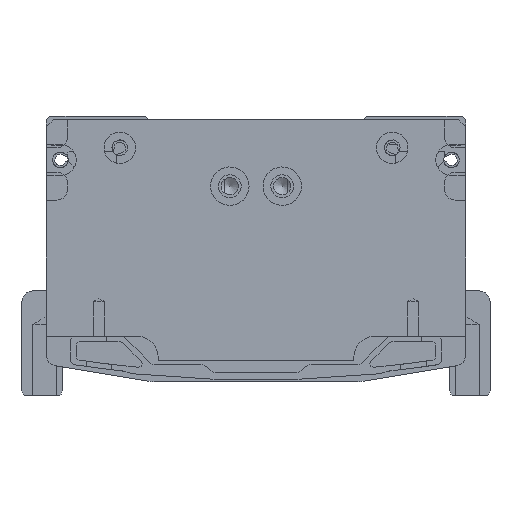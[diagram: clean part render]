
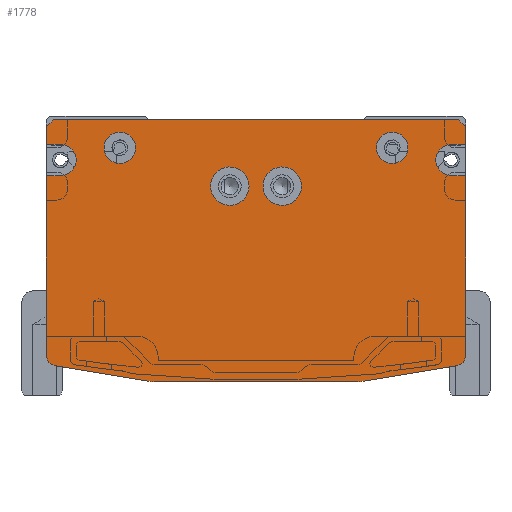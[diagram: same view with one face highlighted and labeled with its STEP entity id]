
A CAD part, front view. The second image highlights one B-rep face of the part: STEP entity #1778.
In plain terms, the highlighted planar face has unit normal (0, -1, 0).
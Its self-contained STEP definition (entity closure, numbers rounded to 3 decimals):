
#1778=ADVANCED_FACE('',(#2989,#2990,#2991,#2992,#2993),#2486,.F.);
#2486=PLANE('',#17746);
#2989=FACE_BOUND('',#4264,.T.);
#2990=FACE_BOUND('',#4265,.T.);
#2991=FACE_BOUND('',#4266,.T.);
#2992=FACE_BOUND('',#4267,.T.);
#2993=FACE_BOUND('',#4268,.T.);
#4264=EDGE_LOOP('',(#8384));
#4265=EDGE_LOOP('',(#8385));
#4266=EDGE_LOOP('',(#8386,#8387,#8388,#8389,#8390,#8391,#8392,#8393,#8394,
#8395,#8396,#8397,#8398,#8399,#8400,#8401,#8402,#8403,#8404,#8405));
#4267=EDGE_LOOP('',(#8406));
#4268=EDGE_LOOP('',(#8407));
#5540=CIRCLE('',#17647,5.5);
#5544=CIRCLE('',#17654,5.5);
#5547=CIRCLE('',#17660,4.5);
#5551=CIRCLE('',#17667,4.5);
#5558=CIRCLE('',#17685,4.5);
#5561=CIRCLE('',#17694,3.);
#5564=CIRCLE('',#17699,10.);
#5565=CIRCLE('',#17702,10.);
#5568=CIRCLE('',#17707,3.);
#5576=CIRCLE('',#17734,4.5);
#8384=ORIENTED_EDGE('',*,*,#13600,.T.);
#8385=ORIENTED_EDGE('',*,*,#13604,.T.);
#8386=ORIENTED_EDGE('',*,*,#13665,.T.);
#8387=ORIENTED_EDGE('',*,*,#13661,.F.);
#8388=ORIENTED_EDGE('',*,*,#13659,.F.);
#8389=ORIENTED_EDGE('',*,*,#13656,.F.);
#8390=ORIENTED_EDGE('',*,*,#13652,.T.);
#8391=ORIENTED_EDGE('',*,*,#13649,.T.);
#8392=ORIENTED_EDGE('',*,*,#13306,.F.);
#8393=ORIENTED_EDGE('',*,*,#13635,.T.);
#8394=ORIENTED_EDGE('',*,*,#13632,.T.);
#8395=ORIENTED_EDGE('',*,*,#13630,.F.);
#8396=ORIENTED_EDGE('',*,*,#13302,.F.);
#8397=ORIENTED_EDGE('',*,*,#13626,.T.);
#8398=ORIENTED_EDGE('',*,*,#13277,.F.);
#8399=ORIENTED_EDGE('',*,*,#13624,.T.);
#8400=ORIENTED_EDGE('',*,*,#13023,.F.);
#8401=ORIENTED_EDGE('',*,*,#13700,.T.);
#8402=ORIENTED_EDGE('',*,*,#13697,.T.);
#8403=ORIENTED_EDGE('',*,*,#13695,.F.);
#8404=ORIENTED_EDGE('',*,*,#13019,.F.);
#8405=ORIENTED_EDGE('',*,*,#13668,.T.);
#8406=ORIENTED_EDGE('',*,*,#13611,.F.);
#8407=ORIENTED_EDGE('',*,*,#13607,.F.);
#11206=VERTEX_POINT('',#26008);
#11207=VERTEX_POINT('',#26010);
#11210=VERTEX_POINT('',#26016);
#11211=VERTEX_POINT('',#26018);
#11336=VERTEX_POINT('',#26900);
#11337=VERTEX_POINT('',#26902);
#11352=VERTEX_POINT('',#26948);
#11353=VERTEX_POINT('',#26950);
#11356=VERTEX_POINT('',#26956);
#11357=VERTEX_POINT('',#26958);
#11556=VERTEX_POINT('',#28047);
#11560=VERTEX_POINT('',#28058);
#11563=VERTEX_POINT('',#28067);
#11566=VERTEX_POINT('',#28077);
#11574=VERTEX_POINT('',#28112);
#11576=VERTEX_POINT('',#28119);
#11587=VERTEX_POINT('',#28153);
#11589=VERTEX_POINT('',#28159);
#11592=VERTEX_POINT('',#28167);
#11594=VERTEX_POINT('',#28173);
#11595=VERTEX_POINT('',#28177);
#11598=VERTEX_POINT('',#28185);
#11610=VERTEX_POINT('',#28244);
#11612=VERTEX_POINT('',#28251);
#13019=EDGE_CURVE('',#11206,#11207,#14871,.T.);
#13023=EDGE_CURVE('',#11210,#11211,#14875,.T.);
#13277=EDGE_CURVE('',#11336,#11337,#15004,.T.);
#13302=EDGE_CURVE('',#11352,#11353,#15029,.T.);
#13306=EDGE_CURVE('',#11356,#11357,#15033,.T.);
#13600=EDGE_CURVE('',#11556,#11556,#5540,.T.);
#13604=EDGE_CURVE('',#11560,#11560,#5544,.T.);
#13607=EDGE_CURVE('',#11563,#11563,#5547,.T.);
#13611=EDGE_CURVE('',#11566,#11566,#5551,.T.);
#13624=EDGE_CURVE('',#11336,#11211,#15207,.T.);
#13626=EDGE_CURVE('',#11352,#11337,#15209,.T.);
#13630=EDGE_CURVE('',#11353,#11574,#15213,.T.);
#13632=EDGE_CURVE('',#11576,#11574,#5558,.T.);
#13635=EDGE_CURVE('',#11356,#11576,#15216,.T.);
#13649=EDGE_CURVE('',#11587,#11357,#5561,.T.);
#13652=EDGE_CURVE('',#11589,#11587,#15229,.T.);
#13656=EDGE_CURVE('',#11589,#11592,#5564,.T.);
#13659=EDGE_CURVE('',#11592,#11594,#15234,.T.);
#13661=EDGE_CURVE('',#11594,#11595,#5565,.T.);
#13665=EDGE_CURVE('',#11598,#11595,#15238,.T.);
#13668=EDGE_CURVE('',#11206,#11598,#5568,.T.);
#13695=EDGE_CURVE('',#11207,#11610,#15260,.T.);
#13697=EDGE_CURVE('',#11612,#11610,#5576,.T.);
#13700=EDGE_CURVE('',#11210,#11612,#15263,.T.);
#14871=LINE('',#26009,#16008);
#14875=LINE('',#26017,#16012);
#15004=LINE('',#26901,#16141);
#15029=LINE('',#26949,#16166);
#15033=LINE('',#26957,#16170);
#15207=LINE('',#28104,#16344);
#15209=LINE('',#28107,#16346);
#15213=LINE('',#28114,#16350);
#15216=LINE('',#28123,#16353);
#15229=LINE('',#28158,#16366);
#15234=LINE('',#28172,#16371);
#15238=LINE('',#28184,#16375);
#15260=LINE('',#28246,#16397);
#15263=LINE('',#28255,#16400);
#16008=VECTOR('',#19969,1.);
#16012=VECTOR('',#19973,1.);
#16141=VECTOR('',#20408,1.);
#16166=VECTOR('',#20447,1.);
#16170=VECTOR('',#20451,1.);
#16344=VECTOR('',#21211,1.);
#16346=VECTOR('',#21215,1.);
#16350=VECTOR('',#21221,1.);
#16353=VECTOR('',#21232,1.);
#16366=VECTOR('',#21265,1.);
#16371=VECTOR('',#21278,1.);
#16375=VECTOR('',#21290,1.);
#16397=VECTOR('',#21366,1.);
#16400=VECTOR('',#21377,1.);
#17647=AXIS2_PLACEMENT_3D('',#28046,#21136,#21137);
#17654=AXIS2_PLACEMENT_3D('',#28057,#21150,#21151);
#17660=AXIS2_PLACEMENT_3D('',#28066,#21162,#21163);
#17667=AXIS2_PLACEMENT_3D('',#28076,#21176,#21177);
#17685=AXIS2_PLACEMENT_3D('',#28118,#21226,#21227);
#17694=AXIS2_PLACEMENT_3D('',#28152,#21258,#21259);
#17699=AXIS2_PLACEMENT_3D('',#28166,#21272,#21273);
#17702=AXIS2_PLACEMENT_3D('',#28176,#21282,#21283);
#17707=AXIS2_PLACEMENT_3D('',#28189,#21296,#21297);
#17734=AXIS2_PLACEMENT_3D('',#28250,#21371,#21372);
#17746=AXIS2_PLACEMENT_3D('',#28272,#21402,#21403);
#19969=DIRECTION('',(0.,0.,1.));
#19973=DIRECTION('',(0.,0.,1.));
#20408=DIRECTION('',(1.,0.,0.));
#20447=DIRECTION('',(0.,0.,-1.));
#20451=DIRECTION('',(0.,0.,-1.));
#21136=DIRECTION('',(0.,1.,0.));
#21137=DIRECTION('',(1.,0.,0.));
#21150=DIRECTION('',(0.,1.,0.));
#21151=DIRECTION('',(1.,0.,0.));
#21162=DIRECTION('',(0.,-1.,0.));
#21163=DIRECTION('',(1.,0.,0.));
#21176=DIRECTION('',(0.,-1.,0.));
#21177=DIRECTION('',(1.,0.,0.));
#21211=DIRECTION('',(-0.707,0.,-0.707));
#21215=DIRECTION('',(-0.707,0.,0.707));
#21221=DIRECTION('',(-1.,0.,0.));
#21226=DIRECTION('',(0.,1.,0.));
#21227=DIRECTION('',(0.,0.,-1.));
#21232=DIRECTION('',(-1.,0.,0.));
#21258=DIRECTION('',(0.,-1.,0.));
#21259=DIRECTION('',(0.164,0.,-0.986));
#21265=DIRECTION('',(0.986,0.,0.164));
#21272=DIRECTION('',(0.,1.,0.));
#21273=DIRECTION('',(0.164,0.,-0.986));
#21278=DIRECTION('',(-1.,0.,0.));
#21282=DIRECTION('',(0.,1.,0.));
#21283=DIRECTION('',(0.,0.,-1.));
#21290=DIRECTION('',(0.986,0.,-0.164));
#21296=DIRECTION('',(0.,-1.,0.));
#21297=DIRECTION('',(-1.,0.,0.));
#21366=DIRECTION('',(1.,0.,0.));
#21371=DIRECTION('',(0.,1.,0.));
#21372=DIRECTION('',(0.,0.,1.));
#21377=DIRECTION('',(1.,0.,0.));
#21402=DIRECTION('',(0.,1.,0.));
#21403=DIRECTION('',(1.,0.,0.));
#26008=CARTESIAN_POINT('',(-60.,-2212.,-69.459));
#26009=CARTESIAN_POINT('',(-60.,-2212.,-69.459));
#26010=CARTESIAN_POINT('',(-60.,-2212.,-18.));
#26016=CARTESIAN_POINT('',(-60.,-2212.,-9.));
#26017=CARTESIAN_POINT('',(-60.,-2212.,-9.));
#26018=CARTESIAN_POINT('',(-60.,-2212.,-4.));
#26900=CARTESIAN_POINT('',(-58.,-2212.,-2.));
#26901=CARTESIAN_POINT('',(-58.,-2212.,-2.));
#26902=CARTESIAN_POINT('',(58.,-2212.,-2.));
#26948=CARTESIAN_POINT('',(60.,-2212.,-4.));
#26949=CARTESIAN_POINT('',(60.,-2212.,-4.));
#26950=CARTESIAN_POINT('',(60.,-2212.,-9.));
#26956=CARTESIAN_POINT('',(60.,-2212.,-18.));
#26957=CARTESIAN_POINT('',(60.,-2212.,-18.));
#26958=CARTESIAN_POINT('',(60.,-2212.,-69.459));
#28046=CARTESIAN_POINT('',(7.5,-2212.,-21.));
#28047=CARTESIAN_POINT('',(13.,-2212.,-21.));
#28057=CARTESIAN_POINT('',(-7.5,-2212.,-21.));
#28058=CARTESIAN_POINT('',(-2.,-2212.,-21.));
#28066=CARTESIAN_POINT('',(-39.,-2212.,-10.));
#28067=CARTESIAN_POINT('',(-34.5,-2212.,-10.));
#28076=CARTESIAN_POINT('',(39.,-2212.,-10.));
#28077=CARTESIAN_POINT('',(43.5,-2212.,-10.));
#28104=CARTESIAN_POINT('',(-58.,-2212.,-2.));
#28107=CARTESIAN_POINT('',(60.,-2212.,-4.));
#28112=CARTESIAN_POINT('',(56.,-2212.,-9.));
#28114=CARTESIAN_POINT('',(60.,-2212.,-9.));
#28118=CARTESIAN_POINT('',(56.,-2212.,-13.5));
#28119=CARTESIAN_POINT('',(56.,-2212.,-18.));
#28123=CARTESIAN_POINT('',(60.,-2212.,-18.));
#28152=CARTESIAN_POINT('',(57.,-2212.,-69.459));
#28153=CARTESIAN_POINT('',(57.493,-2212.,-72.418));
#28158=CARTESIAN_POINT('',(30.816,-2212.,-76.864));
#28159=CARTESIAN_POINT('',(30.816,-2212.,-76.864));
#28166=CARTESIAN_POINT('',(29.172,-2212.,-67.));
#28167=CARTESIAN_POINT('',(29.172,-2212.,-77.));
#28172=CARTESIAN_POINT('',(29.172,-2212.,-77.));
#28173=CARTESIAN_POINT('',(-29.172,-2212.,-77.));
#28176=CARTESIAN_POINT('',(-29.172,-2212.,-67.));
#28177=CARTESIAN_POINT('',(-30.816,-2212.,-76.864));
#28184=CARTESIAN_POINT('',(-57.493,-2212.,-72.418));
#28185=CARTESIAN_POINT('',(-57.493,-2212.,-72.418));
#28189=CARTESIAN_POINT('',(-57.,-2212.,-69.459));
#28244=CARTESIAN_POINT('',(-56.,-2212.,-18.));
#28246=CARTESIAN_POINT('',(-60.,-2212.,-18.));
#28250=CARTESIAN_POINT('',(-56.,-2212.,-13.5));
#28251=CARTESIAN_POINT('',(-56.,-2212.,-9.));
#28255=CARTESIAN_POINT('',(-60.,-2212.,-9.));
#28272=CARTESIAN_POINT('',(0.,-2212.,-2.));
